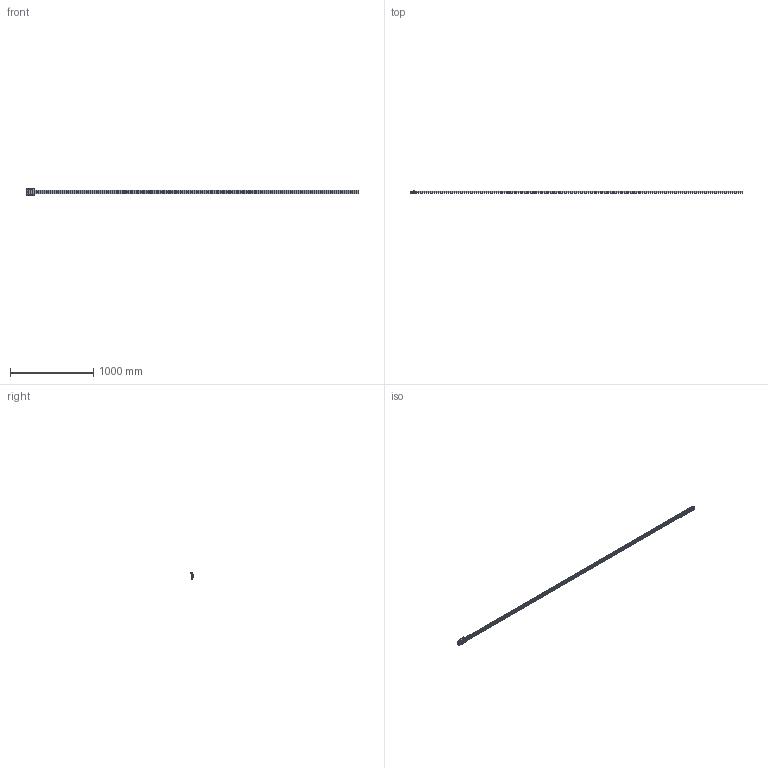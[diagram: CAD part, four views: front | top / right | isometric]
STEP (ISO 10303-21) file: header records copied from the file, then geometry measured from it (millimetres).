
FILE_DESCRIPTION( ( 'STEP AP203' ), '1' );
FILE_NAME( 'p:/temp/worker_19/temp/exporttempdir_3556_275_H93cW/format_0/FDG20 84442LN_4000-0-0.stp', '2021-04-27T06:39:11', ( 'License CC BY-ND 4.0' ), ( 'CADENAS' ), ' ', 'PARTsolutions', ' ' );
FILE_SCHEMA( ( 'CONFIG_CONTROL_DESIGN' ) );
Length unit declared in the file: millimetre
Products named in the file (5): FDG20 84442LN_4000-0-0; _FD_20R 4000-0-0; _FD_20R Rollenhalter_1; _FD_20R 4000-0-0_2; _FD_20R Rollenhalter_2
Assembly tree (4 placements, depth 2):
  FDG20 84442LN_4000-0-0
    _FD_20R 4000-0-0
    _FD_20R Rollenhalter_1
    _FD_20R 4000-0-0_2
    _FD_20R Rollenhalter_2
Bounding box: 4000 x 28 x 81.8 mm (x, y, z)
Volume: 3139117.6 mm3; surface area: 806228 mm2
Topology: 4 solids, 8 shells, 838 faces, 2170 edges, 1484 vertices
Faces by surface type: plane 491, cylinder 334, cone 12, torus 1
Full cylindrical faces by diameter (mm): 3.25 x1, 4.134 x8, 4.917 x4, 5.5 x134, 10 x135
Entity records: 23786 total; most frequent: DIRECTION 4088, CARTESIAN_POINT 3961, ORIENTED_EDGE 3446, EDGE_CURVE 1723, EDGE_LOOP 1543, AXIS2_PLACEMENT_3D 1533, VERTEX_POINT 1338, FACE_OUTER_BOUND 1121
